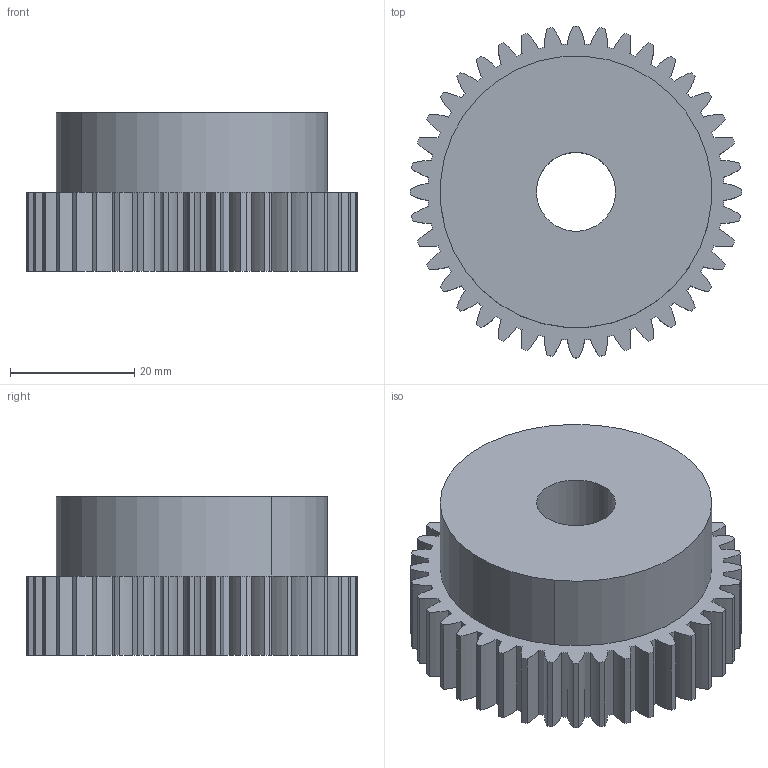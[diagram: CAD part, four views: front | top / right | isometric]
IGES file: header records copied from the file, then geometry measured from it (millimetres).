
Global section: file name: C:\Documents and Settings\Administrator\Desktop\Transfer Temp\gss-2040.igs; native system: AutoDesk Inventor R2.0 ; preprocessor: AutoDesk Inventor Iges Exporter R2.0; author: No Author specified; organization: No Organization specified; date: 20011229.164843; units: inch
Bounding box: 53.34 x 53.34 x 25.4 mm (x, y, z)
Surface area: 10578.4 mm2 (no closed solid volume)
Topology: 0 solids, 0 shells, 167 faces, 984 edges, 984 vertices
Faces by surface type: revolution 162, bspline 5
